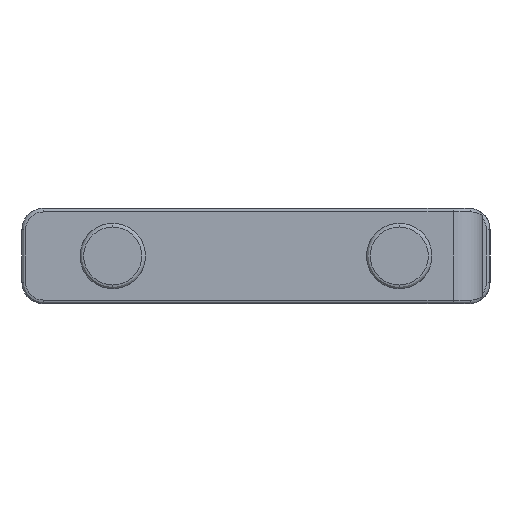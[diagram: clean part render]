
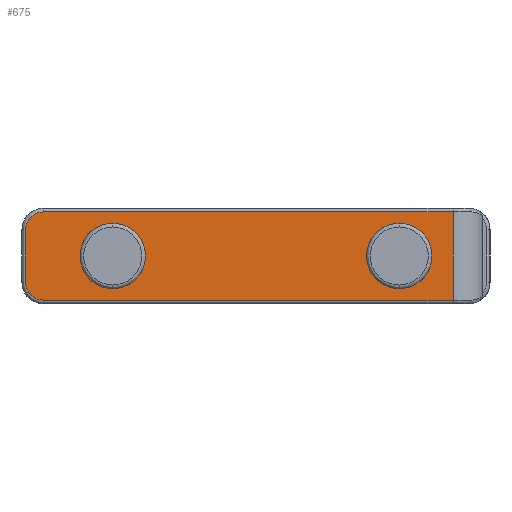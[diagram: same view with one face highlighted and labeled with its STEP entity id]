
A CAD part, left-side view. The second image highlights one B-rep face of the part: STEP entity #675.
In plain terms, the highlighted planar face has unit normal (-1, 0, 0).
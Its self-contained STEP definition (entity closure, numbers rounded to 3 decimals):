
#58 = EDGE_CURVE ( 'NONE', #2627, #2664, #806, .T. ) ;
#161 = ORIENTED_EDGE ( 'NONE', *, *, #2669, .F. ) ;
#246 = EDGE_LOOP ( 'NONE', ( #249, #161 ) ) ;
#248 = EDGE_CURVE ( 'NONE', #669, #252, #1080, .T. ) ;
#249 = ORIENTED_EDGE ( 'NONE', *, *, #58, .F. ) ;
#252 = VERTEX_POINT ( 'NONE', #1075 ) ;
#253 = ORIENTED_EDGE ( 'NONE', *, *, #260, .T. ) ;
#256 = ORIENTED_EDGE ( 'NONE', *, *, #261, .T. ) ;
#257 = VERTEX_POINT ( 'NONE', #1073 ) ;
#260 = EDGE_CURVE ( 'NONE', #257, #666, #1121, .T. ) ;
#261 = EDGE_CURVE ( 'NONE', #262, #257, #1117, .T. ) ;
#262 = VERTEX_POINT ( 'NONE', #1112 ) ;
#400 = ORIENTED_EDGE ( 'NONE', *, *, #402, .T. ) ;
#402 = EDGE_CURVE ( 'NONE', #252, #262, #1595, .T. ) ;
#663 = ORIENTED_EDGE ( 'NONE', *, *, #2657, .F. ) ;
#664 = EDGE_LOOP ( 'NONE', ( #670, #667, #671, #400, #256, #253 ) ) ;
#665 = VERTEX_POINT ( 'NONE', #2036 ) ;
#666 = VERTEX_POINT ( 'NONE', #2035 ) ;
#667 = ORIENTED_EDGE ( 'NONE', *, *, #668, .T. ) ;
#668 = EDGE_CURVE ( 'NONE', #665, #669, #2099, .T. ) ;
#669 = VERTEX_POINT ( 'NONE', #2095 ) ;
#670 = ORIENTED_EDGE ( 'NONE', *, *, #672, .F. ) ;
#671 = ORIENTED_EDGE ( 'NONE', *, *, #248, .T. ) ;
#672 = EDGE_CURVE ( 'NONE', #665, #666, #2094, .T. ) ;
#673 = ORIENTED_EDGE ( 'NONE', *, *, #674, .F. ) ;
#674 = EDGE_CURVE ( 'NONE', #2658, #2659, #2090, .T. ) ;
#675 = ADVANCED_FACE ( 'NONE', ( #2085, #2084, #2083 ), #2082, .F. ) ;
#676 = EDGE_LOOP ( 'NONE', ( #673, #663 ) ) ;
#802 = DIRECTION ( 'NONE',  ( 0., 0., -1. ) ) ;
#803 = DIRECTION ( 'NONE',  ( -1., 0., 0. ) ) ;
#804 = CARTESIAN_POINT ( 'NONE',  ( -333.2, -19.5, 0. ) ) ;
#805 = AXIS2_PLACEMENT_3D ( 'NONE', #804, #803, #802 ) ;
#806 = CIRCLE ( 'NONE', #805, 4.45 ) ;
#1073 = CARTESIAN_POINT ( 'NONE',  ( -333.2, 28.95, -6. ) ) ;
#1075 = CARTESIAN_POINT ( 'NONE',  ( -333.2, 31.35, 3.6 ) ) ;
#1076 = DIRECTION ( 'NONE',  ( 0., 0., -1. ) ) ;
#1077 = DIRECTION ( 'NONE',  ( -1., 0., 0. ) ) ;
#1078 = CARTESIAN_POINT ( 'NONE',  ( -333.2, 28.95, 3.6 ) ) ;
#1079 = AXIS2_PLACEMENT_3D ( 'NONE', #1078, #1077, #1076 ) ;
#1080 = CIRCLE ( 'NONE', #1079, 2.4 ) ;
#1112 = CARTESIAN_POINT ( 'NONE',  ( -333.2, 31.35, -3.6 ) ) ;
#1113 = DIRECTION ( 'NONE',  ( 0., 0., -1. ) ) ;
#1114 = DIRECTION ( 'NONE',  ( -1., 0., 0. ) ) ;
#1115 = CARTESIAN_POINT ( 'NONE',  ( -333.2, 28.95, -3.6 ) ) ;
#1116 = AXIS2_PLACEMENT_3D ( 'NONE', #1115, #1114, #1113 ) ;
#1117 = CIRCLE ( 'NONE', #1116, 2.4 ) ;
#1118 = DIRECTION ( 'NONE',  ( 0., -1., 0. ) ) ;
#1119 = VECTOR ( 'NONE', #1118, 1000. ) ;
#1120 = CARTESIAN_POINT ( 'NONE',  ( -333.2, -26.82, -6. ) ) ;
#1121 = LINE ( 'NONE', #1120, #1119 ) ;
#1592 = DIRECTION ( 'NONE',  ( 0., 0., -1. ) ) ;
#1593 = VECTOR ( 'NONE', #1592, 1000. ) ;
#1594 = CARTESIAN_POINT ( 'NONE',  ( -333.2, 31.35, -3.6 ) ) ;
#1595 = LINE ( 'NONE', #1594, #1593 ) ;
#2035 = CARTESIAN_POINT ( 'NONE',  ( -333.2, -26.82, -6. ) ) ;
#2036 = CARTESIAN_POINT ( 'NONE',  ( -333.2, -26.82, 6. ) ) ;
#2077 = DIRECTION ( 'NONE',  ( 0., 0., -1. ) ) ;
#2078 = DIRECTION ( 'NONE',  ( 1., 0., 0. ) ) ;
#2079 = CARTESIAN_POINT ( 'NONE',  ( -333.2, -27.9, -2.9 ) ) ;
#2081 = AXIS2_PLACEMENT_3D ( 'NONE', #2079, #2078, #2077 ) ;
#2082 = PLANE ( 'NONE',  #2081 ) ;
#2083 = FACE_BOUND ( 'NONE', #246, .T. ) ;
#2084 = FACE_OUTER_BOUND ( 'NONE', #664, .T. ) ;
#2085 = FACE_BOUND ( 'NONE', #676, .T. ) ;
#2086 = DIRECTION ( 'NONE',  ( 0., 0., -1. ) ) ;
#2087 = DIRECTION ( 'NONE',  ( -1., 0., 0. ) ) ;
#2088 = CARTESIAN_POINT ( 'NONE',  ( -333.2, 19.5, 0. ) ) ;
#2089 = AXIS2_PLACEMENT_3D ( 'NONE', #2088, #2087, #2086 ) ;
#2090 = CIRCLE ( 'NONE', #2089, 4.45 ) ;
#2091 = DIRECTION ( 'NONE',  ( 0., 0., -1. ) ) ;
#2092 = VECTOR ( 'NONE', #2091, 1000. ) ;
#2093 = CARTESIAN_POINT ( 'NONE',  ( -333.2, -26.82, -7.5 ) ) ;
#2094 = LINE ( 'NONE', #2093, #2092 ) ;
#2095 = CARTESIAN_POINT ( 'NONE',  ( -333.2, 28.95, 6. ) ) ;
#2096 = DIRECTION ( 'NONE',  ( 0., 1., 0. ) ) ;
#2097 = VECTOR ( 'NONE', #2096, 1000. ) ;
#2098 = CARTESIAN_POINT ( 'NONE',  ( -333.2, 28.95, 6. ) ) ;
#2099 = LINE ( 'NONE', #2098, #2097 ) ;
#2416 = CARTESIAN_POINT ( 'NONE',  ( -333.2, -19.5, -4.45 ) ) ;
#2627 = VERTEX_POINT ( 'NONE', #2416 ) ;
#2657 = EDGE_CURVE ( 'NONE', #2659, #2658, #2783, .T. ) ;
#2658 = VERTEX_POINT ( 'NONE', #2778 ) ;
#2659 = VERTEX_POINT ( 'NONE', #2777 ) ;
#2664 = VERTEX_POINT ( 'NONE', #2772 ) ;
#2669 = EDGE_CURVE ( 'NONE', #2664, #2627, #2770, .T. ) ;
#2766 = DIRECTION ( 'NONE',  ( 0., 0., -1. ) ) ;
#2767 = DIRECTION ( 'NONE',  ( -1., 0., 0. ) ) ;
#2768 = CARTESIAN_POINT ( 'NONE',  ( -333.2, -19.5, 0. ) ) ;
#2769 = AXIS2_PLACEMENT_3D ( 'NONE', #2768, #2767, #2766 ) ;
#2770 = CIRCLE ( 'NONE', #2769, 4.45 ) ;
#2772 = CARTESIAN_POINT ( 'NONE',  ( -333.2, -19.5, 4.45 ) ) ;
#2777 = CARTESIAN_POINT ( 'NONE',  ( -333.2, 19.5, 4.45 ) ) ;
#2778 = CARTESIAN_POINT ( 'NONE',  ( -333.2, 19.5, -4.45 ) ) ;
#2779 = DIRECTION ( 'NONE',  ( 0., 0., -1. ) ) ;
#2780 = DIRECTION ( 'NONE',  ( -1., 0., 0. ) ) ;
#2781 = CARTESIAN_POINT ( 'NONE',  ( -333.2, 19.5, 0. ) ) ;
#2782 = AXIS2_PLACEMENT_3D ( 'NONE', #2781, #2780, #2779 ) ;
#2783 = CIRCLE ( 'NONE', #2782, 4.45 ) ;
